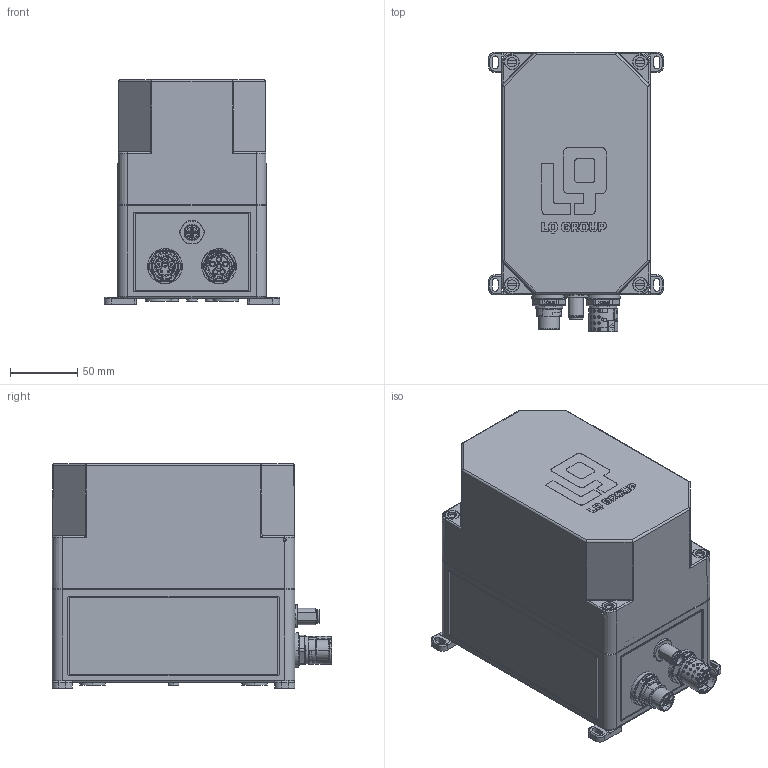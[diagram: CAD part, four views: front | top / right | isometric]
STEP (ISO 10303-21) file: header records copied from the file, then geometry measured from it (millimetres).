
FILE_DESCRIPTION (( 'STEP AP214' ), '1' );
FILE_NAME ('vereinfacht_1145928.STEP', '2020-02-24T17:52:53', ( '' ), ( '' ), 'SwSTEP 2.0', 'SolidWorks 2019', '' );
FILE_SCHEMA (( 'AUTOMOTIVE_DESIGN' ));
Length unit declared in the file: millimetre
Products named in the file (1): vereinfacht_1145928
Bounding box: 130 x 207.43 x 166.4 mm (x, y, z)
Surface area: 300561.1 mm2 (no closed solid volume)
Topology: 0 solids, 29 shells, 2429 faces, 6791 edges, 4512 vertices
Faces by surface type: plane 1190, cylinder 679, bspline 363, cone 106, torus 85, sphere 6
Entity records: 124362 total; most frequent: CARTESIAN_POINT 37979, ORIENTED_EDGE 12767, DIRECTION 11255, EDGE_CURVE 6766, VERTEX_POINT 4506, AXIS2_PLACEMENT_3D 3833, VECTOR 3589, LINE 3589
